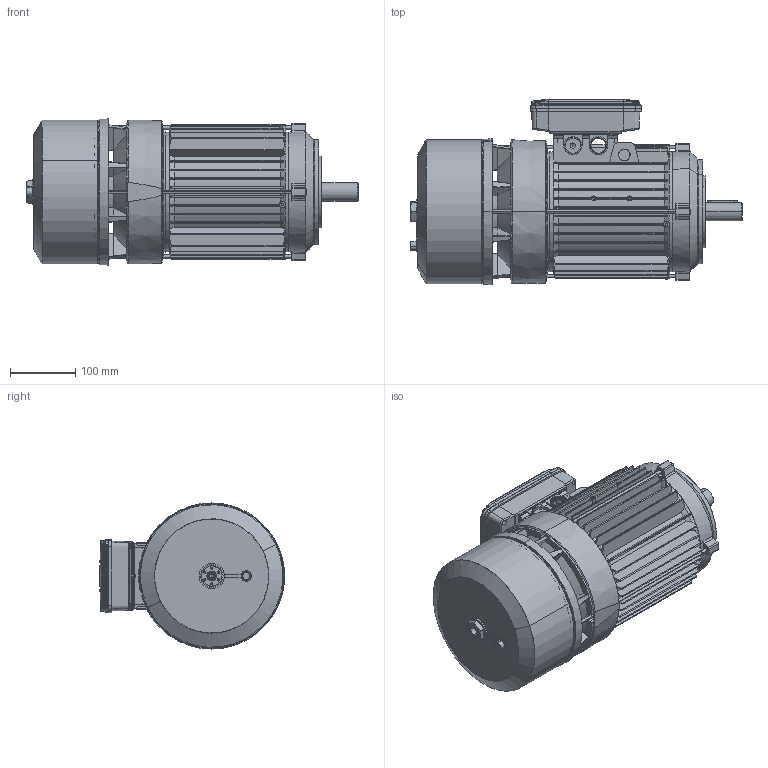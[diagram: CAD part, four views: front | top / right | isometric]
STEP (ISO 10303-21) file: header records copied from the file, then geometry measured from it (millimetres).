
FILE_DESCRIPTION (( 'STEP AP214' ), '1' );
FILE_NAME ('M02HC0011.STEP', '2018-12-06T16:47:53', ( '' ), ( '' ), 'SwSTEP 2.0', 'SolidWorks 2018', '' );
FILE_SCHEMA (( 'AUTOMOTIVE_DESIGN' ));
Length unit declared in the file: millimetre
Products named in the file (16): Carcassa 112 B5; M02HC0011; Guarnizione Coperchio Semplice Scatola BA 90 100 112 - DDAL0094; Vite  a testa bombata M4x16; Scatola per Morsettiera Doppia 90-100-112 - Completa; Coperchio per Scatola per Morsettiera Doppia 90-100-112; Scatola per Morsettiera Doppia 90-100-112; Tirante BA 112 - DBA60094; O-ring freno BA 112; Vite a Testa Esagona con foro e tappo 71-112 - Modificata; Scudo a Flangia B14 112 - DFAC0194 LAVORATO; Chiavetta 100-112; Cuffia serie BA 112; Convogliatore con pista di attrito P2 BA 112-6; Scudo Lato Freno BA 112 P1 - DFAE0094; Albero BA 112
Assembly tree (21 placements, depth 3):
  M02HC0011
    Carcassa 112 B5
    Albero BA 112
    Scudo Lato Freno BA 112 P1 - DFAE0094
    Convogliatore con pista di attrito P2 BA 112-6
    Cuffia serie BA 112
    Chiavetta 100-112
    Scudo a Flangia B14 112 - DFAC0194 LAVORATO
    Vite a Testa Esagona con foro e tappo 71-112 - Modificata
    O-ring freno BA 112
    Tirante BA 112 - DBA60094  x4
    Scatola per Morsettiera Doppia 90-100-112 - Completa
      Scatola per Morsettiera Doppia 90-100-112
      Coperchio per Scatola per Morsettiera Doppia 90-100-112
      Vite  a testa bombata M4x16  x4
      Guarnizione Coperchio Semplice Scatola BA 90 100 112 - DDAL0094
Bounding box: 507.68 x 283.75 x 223.5 mm (x, y, z)
Volume: 2577519.4 mm3; surface area: 1356856.9 mm2
Topology: 24 solids, 24 shells, 3317 faces, 8644 edges, 5390 vertices
Faces by surface type: cylinder 1021, plane 1005, cone 462, torus 417, bspline 404, sphere 8
Entity records: 128865 total; most frequent: CARTESIAN_POINT 48897, ORIENTED_EDGE 16120, DIRECTION 13854, EDGE_CURVE 8060, AXIS2_PLACEMENT_3D 5447, VERTEX_POINT 5066, EDGE_LOOP 3276, ADVANCED_FACE 3065
